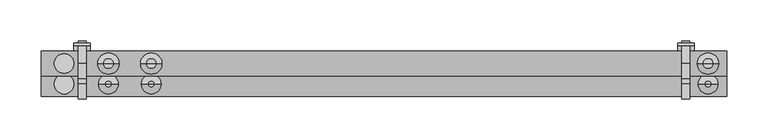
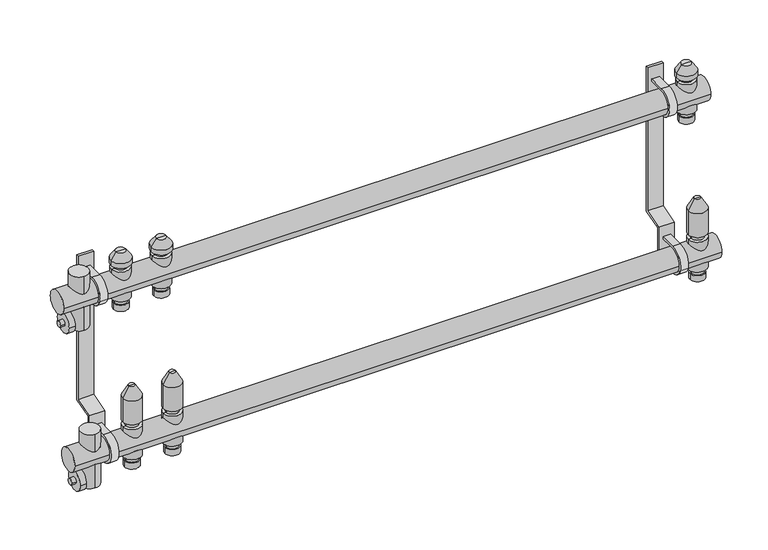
"""IFC4 building model written with IfcOpenShell, lengths in millimetres: valve geometry, PL AT_Manifold_FT-EV : 15 circuits."""

from ifc_helpers import new_model, si_unit, point, frame, frame_2d, origin, origin_2d, place, context, project, spatial, polyline, circle_curve, trimmed, segment, composite_curve, outline, extrude, source, transform, mapped, element, save
from ifc_brep_helpers import plane_surface, cylinder_surface, revolved_surface, advanced_brep


def valve_c404d8d8(model_context):
    return source(origin(), model_context, "Body", "SolidModel", [
        advanced_brep(
        [(84.6428571, 0.0, -35.11267), (103.6428571, 0.0, -35.11267), (94.1428571, 0.0, -35.11267), (84.6428571, 0.0, -27.0369646), (103.6428571, 0.0, -27.0369646), (86.1428571, 0.0, -27.0369646), (102.1428571, 0.0, -27.0369646), (86.1428571, 0.0, -20.330253), (102.1428571, 0.0, -20.330253), (82.1428571, 0.0, -20.330253), (106.1428571, 0.0, -20.330253), (82.1428571, 0.0, 20.330253), (106.1428571, 0.0, 20.330253), (86.1428571, 0.0, 20.330253), (102.1428571, 0.0, 20.330253), (86.1428571, 0.0, 27.0474786), (102.1428571, 0.0, 27.0474786), (82.1428571, 0.0, 27.0474786), (106.1428571, 0.0, 27.0474786), (82.1428571, 0.0, 59.4084325), (106.1428571, 0.0, 59.4084325), (90.1428571, 0.0, 73.264839), (98.1428571, 0.0, 73.264839), (94.1428571, 0.0, 73.264839)],
        [
            (0, 1, circle_curve(frame((94.1428571, 0.0, -35.11267), z_axis=(0.0, 0.0, -1.0), x_axis=(1.0, 0.0, 0.0)), 9.5)),
            (1, 2),
            (2, 0),
            (1, 0, circle_curve(frame((94.1428571, 0.0, -35.11267), z_axis=(0.0, 0.0, -1.0), x_axis=(1.0, 0.0, 0.0)), 9.5)),
            (3, 4, circle_curve(frame((94.1428571, 0.0, -27.0369646), z_axis=(0.0, 0.0, -1.0), x_axis=(1.0, 0.0, 0.0)), 9.5)),
            (4, 1),
            (0, 3),
            (4, 3, circle_curve(frame((94.1428571, 0.0, -27.0369646), z_axis=(0.0, 0.0, -1.0), x_axis=(1.0, 0.0, 0.0)), 9.5)),
            (5, 6, circle_curve(frame((94.1428571, 0.0, -27.0369646), z_axis=(0.0, 0.0, -1.0), x_axis=(1.0, 0.0, 0.0)), 8.0)),
            (6, 4),
            (3, 5),
            (6, 5, circle_curve(frame((94.1428571, 0.0, -27.0369646), z_axis=(0.0, 0.0, -1.0), x_axis=(1.0, 0.0, 0.0)), 8.0)),
            (7, 8, circle_curve(frame((94.1428571, 0.0, -20.330253), z_axis=(0.0, 0.0, -1.0), x_axis=(1.0, 0.0, 0.0)), 8.0)),
            (8, 6),
            (5, 7),
            (8, 7, circle_curve(frame((94.1428571, 0.0, -20.330253), z_axis=(0.0, 0.0, -1.0), x_axis=(1.0, 0.0, 0.0)), 8.0)),
            (9, 10, circle_curve(frame((94.1428571, 0.0, -20.330253), z_axis=(0.0, 0.0, -1.0), x_axis=(1.0, 0.0, 0.0)), 12.0)),
            (10, 8),
            (7, 9),
            (10, 9, circle_curve(frame((94.1428571, 0.0, -20.330253), z_axis=(0.0, 0.0, -1.0), x_axis=(1.0, 0.0, 0.0)), 12.0)),
            (11, 12, circle_curve(frame((94.1428571, 0.0, 20.330253), z_axis=(0.0, 0.0, -1.0), x_axis=(1.0, 0.0, 0.0)), 12.0)),
            (12, 10),
            (9, 11),
            (12, 11, circle_curve(frame((94.1428571, 0.0, 20.330253), z_axis=(0.0, 0.0, -1.0), x_axis=(1.0, 0.0, 0.0)), 12.0)),
            (13, 14, circle_curve(frame((94.1428571, 0.0, 20.330253), z_axis=(0.0, 0.0, -1.0), x_axis=(1.0, 0.0, 0.0)), 8.0)),
            (14, 12),
            (11, 13),
            (14, 13, circle_curve(frame((94.1428571, 0.0, 20.330253), z_axis=(0.0, 0.0, -1.0), x_axis=(1.0, 0.0, 0.0)), 8.0)),
            (15, 16, circle_curve(frame((94.1428571, 0.0, 27.0474786), z_axis=(0.0, 0.0, -1.0), x_axis=(1.0, 0.0, 0.0)), 8.0)),
            (16, 14),
            (13, 15),
            (16, 15, circle_curve(frame((94.1428571, 0.0, 27.0474786), z_axis=(0.0, 0.0, -1.0), x_axis=(1.0, 0.0, 0.0)), 8.0)),
            (17, 18, circle_curve(frame((94.1428571, 0.0, 27.0474786), z_axis=(0.0, 0.0, -1.0), x_axis=(1.0, 0.0, 0.0)), 12.0)),
            (18, 16),
            (15, 17),
            (18, 17, circle_curve(frame((94.1428571, 0.0, 27.0474786), z_axis=(0.0, 0.0, -1.0), x_axis=(1.0, 0.0, 0.0)), 12.0)),
            (19, 20, circle_curve(frame((94.1428571, 0.0, 59.4084325), z_axis=(0.0, 0.0, -1.0), x_axis=(1.0, 0.0, 0.0)), 12.0)),
            (20, 18),
            (17, 19),
            (20, 19, circle_curve(frame((94.1428571, 0.0, 59.4084325), z_axis=(0.0, 0.0, -1.0), x_axis=(1.0, 0.0, 0.0)), 12.0)),
            (21, 22, circle_curve(frame((94.1428571, 0.0, 73.264839), z_axis=(0.0, 0.0, -1.0), x_axis=(1.0, 0.0, 0.0)), 4.0)),
            (22, 20),
            (19, 21),
            (22, 21, circle_curve(frame((94.1428571, 0.0, 73.264839), z_axis=(0.0, 0.0, -1.0), x_axis=(1.0, 0.0, 0.0)), 4.0)),
            (23, 22),
            (21, 23),
        ],
        [
            plane_surface(frame((94.1428571, 0.0, -35.11267), z_axis=(0.0, 0.0, -1.0), x_axis=(1.0, 0.0, 0.0))),
            cylinder_surface(frame((94.1428571, 0.0, 58.264839), z_axis=(0.0, 0.0, 1.0), x_axis=(1.0, 0.0, 0.0)), 9.5),
            plane_surface(frame((94.1428571, 0.0, -27.0369646), z_axis=(0.0, 0.0, 1.0), x_axis=(1.0, 0.0, 0.0))),
            cylinder_surface(frame((94.1428571, 0.0, 58.264839), z_axis=(0.0, 0.0, 1.0), x_axis=(1.0, 0.0, 0.0)), 8.0),
            plane_surface(frame((94.1428571, 0.0, -20.330253), z_axis=(0.0, 0.0, -1.0), x_axis=(1.0, 0.0, 0.0))),
            cylinder_surface(frame((94.1428571, 0.0, 58.264839), z_axis=(0.0, 0.0, 1.0), x_axis=(1.0, 0.0, 0.0)), 12.0),
            plane_surface(frame((94.1428571, 0.0, 20.330253), z_axis=(0.0, 0.0, 1.0), x_axis=(1.0, 0.0, 0.0))),
            plane_surface(frame((94.1428571, 0.0, 27.0474786), z_axis=(0.0, 0.0, -1.0), x_axis=(1.0, 0.0, 0.0))),
            revolved_surface(polyline([(106.1428571, 0.0, 59.4084325), (98.1428571, 0.0, 73.264839)]), (94.1428571, 0.0, 58.264839), (0.0, 0.0, 1.0)),
            plane_surface(frame((94.1428571, 0.0, 73.264839), z_axis=(0.0, 0.0, 1.0), x_axis=(1.0, 0.0, 0.0))),
        ],
        [
            (0, [[1, 2, 3]]),
            (0, [[4, -3, -2]]),
            (1, [[5, 6, -1, 7]]),
            (1, [[8, -7, -4, -6]]),
            (2, [[9, 10, -5, 11]]),
            (2, [[12, -11, -8, -10]]),
            (3, [[13, 14, -9, 15]]),
            (3, [[16, -15, -12, -14]]),
            (4, [[17, 18, -13, 19]]),
            (4, [[20, -19, -16, -18]]),
            (5, [[21, 22, -17, 23]]),
            (5, [[24, -23, -20, -22]]),
            (6, [[25, 26, -21, 27]]),
            (6, [[28, -27, -24, -26]]),
            (3, [[29, 30, -25, 31]]),
            (3, [[32, -31, -28, -30]]),
            (7, [[33, 34, -29, 35]]),
            (7, [[36, -35, -32, -34]]),
            (5, [[37, 38, -33, 39]]),
            (5, [[40, -39, -36, -38]]),
            (8, [[41, 42, -37, 43]]),
            (8, [[44, -43, -40, -42]]),
            (9, [[45, -41, 46]]),
            (9, [[-46, -44, -45]]),
        ],
    ),
        advanced_brep(
        [(84.6428571, 25.0, 164.88733), (103.6428571, 25.0, 164.88733), (94.1428571, 25.0, 164.88733), (84.6428571, 25.0, 172.9630354), (103.6428571, 25.0, 172.9630354), (86.1428571, 25.0, 172.9630354), (102.1428571, 25.0, 172.9630354), (86.1428571, 25.0, 179.669747), (102.1428571, 25.0, 179.669747), (82.1428571, 25.0, 179.669747), (106.1428571, 25.0, 179.669747), (82.1428571, 25.0, 220.330253), (106.1428571, 25.0, 220.330253), (86.1428571, 25.0, 220.330253), (102.1428571, 25.0, 220.330253), (86.1428571, 25.0, 226.0474786), (102.1428571, 25.0, 226.0474786), (81.1428571, 25.0, 226.0474786), (107.1428571, 25.0, 226.0474786), (81.1428571, 25.0, 232.337955), (107.1428571, 25.0, 232.337955), (87.798035, 25.0, 241.842534), (100.4876793, 25.0, 241.842534), (94.1428571, 25.0, 241.842534)],
        [
            (0, 1, circle_curve(frame((94.1428571, 25.0, 164.88733), z_axis=(0.0, 0.0, -1.0), x_axis=(1.0, 0.0, 0.0)), 9.5)),
            (1, 2),
            (2, 0),
            (1, 0, circle_curve(frame((94.1428571, 25.0, 164.88733), z_axis=(0.0, 0.0, -1.0), x_axis=(1.0, 0.0, 0.0)), 9.5)),
            (3, 4, circle_curve(frame((94.1428571, 25.0, 172.9630354), z_axis=(0.0, 0.0, -1.0), x_axis=(1.0, 0.0, 0.0)), 9.5)),
            (4, 1),
            (0, 3),
            (4, 3, circle_curve(frame((94.1428571, 25.0, 172.9630354), z_axis=(0.0, 0.0, -1.0), x_axis=(1.0, 0.0, 0.0)), 9.5)),
            (5, 6, circle_curve(frame((94.1428571, 25.0, 172.9630354), z_axis=(0.0, 0.0, -1.0), x_axis=(1.0, 0.0, 0.0)), 8.0)),
            (6, 4),
            (3, 5),
            (6, 5, circle_curve(frame((94.1428571, 25.0, 172.9630354), z_axis=(0.0, 0.0, -1.0), x_axis=(1.0, 0.0, 0.0)), 8.0)),
            (7, 8, circle_curve(frame((94.1428571, 25.0, 179.669747), z_axis=(0.0, 0.0, -1.0), x_axis=(1.0, 0.0, 0.0)), 8.0)),
            (8, 6),
            (5, 7),
            (8, 7, circle_curve(frame((94.1428571, 25.0, 179.669747), z_axis=(0.0, 0.0, -1.0), x_axis=(1.0, 0.0, 0.0)), 8.0)),
            (9, 10, circle_curve(frame((94.1428571, 25.0, 179.669747), z_axis=(0.0, 0.0, -1.0), x_axis=(1.0, 0.0, 0.0)), 12.0)),
            (10, 8),
            (7, 9),
            (10, 9, circle_curve(frame((94.1428571, 25.0, 179.669747), z_axis=(0.0, 0.0, -1.0), x_axis=(1.0, 0.0, 0.0)), 12.0)),
            (11, 12, circle_curve(frame((94.1428571, 25.0, 220.330253), z_axis=(0.0, 0.0, -1.0), x_axis=(1.0, 0.0, 0.0)), 12.0)),
            (12, 10),
            (9, 11),
            (12, 11, circle_curve(frame((94.1428571, 25.0, 220.330253), z_axis=(0.0, 0.0, -1.0), x_axis=(1.0, 0.0, 0.0)), 12.0)),
            (13, 14, circle_curve(frame((94.1428571, 25.0, 220.330253), z_axis=(0.0, 0.0, -1.0), x_axis=(1.0, 0.0, 0.0)), 8.0)),
            (14, 12),
            (11, 13),
            (14, 13, circle_curve(frame((94.1428571, 25.0, 220.330253), z_axis=(0.0, 0.0, -1.0), x_axis=(1.0, 0.0, 0.0)), 8.0)),
            (15, 16, circle_curve(frame((94.1428571, 25.0, 226.0474786), z_axis=(0.0, 0.0, -1.0), x_axis=(1.0, 0.0, 0.0)), 8.0)),
            (16, 14),
            (13, 15),
            (16, 15, circle_curve(frame((94.1428571, 25.0, 226.0474786), z_axis=(0.0, 0.0, -1.0), x_axis=(1.0, 0.0, 0.0)), 8.0)),
            (17, 18, circle_curve(frame((94.1428571, 25.0, 226.0474786), z_axis=(0.0, 0.0, -1.0), x_axis=(1.0, 0.0, 0.0)), 13.0)),
            (18, 16),
            (15, 17),
            (18, 17, circle_curve(frame((94.1428571, 25.0, 226.0474786), z_axis=(0.0, 0.0, -1.0), x_axis=(1.0, 0.0, 0.0)), 13.0)),
            (19, 20, circle_curve(frame((94.1428571, 25.0, 232.337955), z_axis=(0.0, 0.0, -1.0), x_axis=(1.0, 0.0, 0.0)), 13.0)),
            (20, 18),
            (17, 19),
            (20, 19, circle_curve(frame((94.1428571, 25.0, 232.337955), z_axis=(0.0, 0.0, -1.0), x_axis=(1.0, 0.0, 0.0)), 13.0)),
            (21, 22, circle_curve(frame((94.1428571, 25.0, 241.842534), z_axis=(0.0, 0.0, -1.0), x_axis=(1.0, 0.0, 0.0)), 6.3448221)),
            (22, 20),
            (19, 21),
            (22, 21, circle_curve(frame((94.1428571, 25.0, 241.842534), z_axis=(0.0, 0.0, -1.0), x_axis=(1.0, 0.0, 0.0)), 6.3448221)),
            (23, 22),
            (21, 23),
        ],
        [
            plane_surface(frame((94.1428571, 25.0, 164.88733), z_axis=(0.0, 0.0, -1.0), x_axis=(1.0, 0.0, 0.0))),
            cylinder_surface(frame((94.1428571, 25.0, 237.7026565), z_axis=(0.0, 0.0, 1.0), x_axis=(1.0, 0.0, 0.0)), 9.5),
            plane_surface(frame((94.1428571, 25.0, 172.9630354), z_axis=(0.0, 0.0, 1.0), x_axis=(1.0, 0.0, 0.0))),
            cylinder_surface(frame((94.1428571, 25.0, 237.7026565), z_axis=(0.0, 0.0, 1.0), x_axis=(1.0, 0.0, 0.0)), 8.0),
            plane_surface(frame((94.1428571, 25.0, 179.669747), z_axis=(0.0, 0.0, -1.0), x_axis=(1.0, 0.0, 0.0))),
            cylinder_surface(frame((94.1428571, 25.0, 237.7026565), z_axis=(0.0, 0.0, 1.0), x_axis=(1.0, 0.0, 0.0)), 12.0),
            plane_surface(frame((94.1428571, 25.0, 220.330253), z_axis=(0.0, 0.0, 1.0), x_axis=(1.0, 0.0, 0.0))),
            plane_surface(frame((94.1428571, 25.0, 226.0474786), z_axis=(0.0, 0.0, -1.0), x_axis=(1.0, 0.0, 0.0))),
            cylinder_surface(frame((94.1428571, 25.0, 237.7026565), z_axis=(0.0, 0.0, 1.0), x_axis=(1.0, 0.0, 0.0)), 13.0),
            revolved_surface(polyline([(107.1428571, 25.0, 232.337955), (100.4876793, 25.0, 241.842534)]), (94.1428571, 25.0, 237.7026565), (0.0, 0.0, 1.0)),
            plane_surface(frame((94.1428571, 25.0, 241.842534), z_axis=(0.0, 0.0, 1.0), x_axis=(1.0, 0.0, 0.0))),
        ],
        [
            (0, [[1, 2, 3]]),
            (0, [[4, -3, -2]]),
            (1, [[5, 6, -1, 7]]),
            (1, [[8, -7, -4, -6]]),
            (2, [[9, 10, -5, 11]]),
            (2, [[12, -11, -8, -10]]),
            (3, [[13, 14, -9, 15]]),
            (3, [[16, -15, -12, -14]]),
            (4, [[17, 18, -13, 19]]),
            (4, [[20, -19, -16, -18]]),
            (5, [[21, 22, -17, 23]]),
            (5, [[24, -23, -20, -22]]),
            (6, [[25, 26, -21, 27]]),
            (6, [[28, -27, -24, -26]]),
            (3, [[29, 30, -25, 31]]),
            (3, [[32, -31, -28, -30]]),
            (7, [[33, 34, -29, 35]]),
            (7, [[36, -35, -32, -34]]),
            (8, [[37, 38, -33, 39]]),
            (8, [[40, -39, -36, -38]]),
            (9, [[41, 42, -37, 43]]),
            (9, [[44, -43, -40, -42]]),
            (10, [[45, -41, 46]]),
            (10, [[-46, -44, -45]]),
        ],
    ),
        advanced_brep(
        [(762.5, 0.0, -35.11267), (781.5, 0.0, -35.11267), (772.0, 0.0, -35.11267), (762.5, 0.0, -27.0369646), (781.5, 0.0, -27.0369646), (764.0, 0.0, -27.0369646), (780.0, 0.0, -27.0369646), (764.0, 0.0, -20.330253), (780.0, 0.0, -20.330253), (760.0, 0.0, -20.330253), (784.0, 0.0, -20.330253), (760.0, 0.0, 20.330253), (784.0, 0.0, 20.330253), (764.0, 0.0, 20.330253), (780.0, 0.0, 20.330253), (764.0, 0.0, 27.0474786), (780.0, 0.0, 27.0474786), (760.0, 0.0, 27.0474786), (784.0, 0.0, 27.0474786), (760.0, 0.0, 59.4084325), (784.0, 0.0, 59.4084325), (768.0, 0.0, 73.264839), (776.0, 0.0, 73.264839), (772.0, 0.0, 73.264839)],
        [
            (0, 1, circle_curve(frame((772.0, 0.0, -35.11267), z_axis=(0.0, 0.0, -1.0), x_axis=(1.0, 0.0, 0.0)), 9.5)),
            (1, 2),
            (2, 0),
            (1, 0, circle_curve(frame((772.0, 0.0, -35.11267), z_axis=(0.0, 0.0, -1.0), x_axis=(1.0, 0.0, 0.0)), 9.5)),
            (3, 4, circle_curve(frame((772.0, 0.0, -27.0369646), z_axis=(0.0, 0.0, -1.0), x_axis=(1.0, 0.0, 0.0)), 9.5)),
            (4, 1),
            (0, 3),
            (4, 3, circle_curve(frame((772.0, 0.0, -27.0369646), z_axis=(0.0, 0.0, -1.0), x_axis=(1.0, 0.0, 0.0)), 9.5)),
            (5, 6, circle_curve(frame((772.0, 0.0, -27.0369646), z_axis=(0.0, 0.0, -1.0), x_axis=(1.0, 0.0, 0.0)), 8.0)),
            (6, 4),
            (3, 5),
            (6, 5, circle_curve(frame((772.0, 0.0, -27.0369646), z_axis=(0.0, 0.0, -1.0), x_axis=(1.0, 0.0, 0.0)), 8.0)),
            (7, 8, circle_curve(frame((772.0, 0.0, -20.330253), z_axis=(0.0, 0.0, -1.0), x_axis=(1.0, 0.0, 0.0)), 8.0)),
            (8, 6),
            (5, 7),
            (8, 7, circle_curve(frame((772.0, 0.0, -20.330253), z_axis=(0.0, 0.0, -1.0), x_axis=(1.0, 0.0, 0.0)), 8.0)),
            (9, 10, circle_curve(frame((772.0, 0.0, -20.330253), z_axis=(0.0, 0.0, -1.0), x_axis=(1.0, 0.0, 0.0)), 12.0)),
            (10, 8),
            (7, 9),
            (10, 9, circle_curve(frame((772.0, 0.0, -20.330253), z_axis=(0.0, 0.0, -1.0), x_axis=(1.0, 0.0, 0.0)), 12.0)),
            (11, 12, circle_curve(frame((772.0, 0.0, 20.330253), z_axis=(0.0, 0.0, -1.0), x_axis=(1.0, 0.0, 0.0)), 12.0)),
            (12, 10),
            (9, 11),
            (12, 11, circle_curve(frame((772.0, 0.0, 20.330253), z_axis=(0.0, 0.0, -1.0), x_axis=(1.0, 0.0, 0.0)), 12.0)),
            (13, 14, circle_curve(frame((772.0, 0.0, 20.330253), z_axis=(0.0, 0.0, -1.0), x_axis=(1.0, 0.0, 0.0)), 8.0)),
            (14, 12),
            (11, 13),
            (14, 13, circle_curve(frame((772.0, 0.0, 20.330253), z_axis=(0.0, 0.0, -1.0), x_axis=(1.0, 0.0, 0.0)), 8.0)),
            (15, 16, circle_curve(frame((772.0, 0.0, 27.0474786), z_axis=(0.0, 0.0, -1.0), x_axis=(1.0, 0.0, 0.0)), 8.0)),
            (16, 14),
            (13, 15),
            (16, 15, circle_curve(frame((772.0, 0.0, 27.0474786), z_axis=(0.0, 0.0, -1.0), x_axis=(1.0, 0.0, 0.0)), 8.0)),
            (17, 18, circle_curve(frame((772.0, 0.0, 27.0474786), z_axis=(0.0, 0.0, -1.0), x_axis=(1.0, 0.0, 0.0)), 12.0)),
            (18, 16),
            (15, 17),
            (18, 17, circle_curve(frame((772.0, 0.0, 27.0474786), z_axis=(0.0, 0.0, -1.0), x_axis=(1.0, 0.0, 0.0)), 12.0)),
            (19, 20, circle_curve(frame((772.0, 0.0, 59.4084325), z_axis=(0.0, 0.0, -1.0), x_axis=(1.0, 0.0, 0.0)), 12.0)),
            (20, 18),
            (17, 19),
            (20, 19, circle_curve(frame((772.0, 0.0, 59.4084325), z_axis=(0.0, 0.0, -1.0), x_axis=(1.0, 0.0, 0.0)), 12.0)),
            (21, 22, circle_curve(frame((772.0, 0.0, 73.264839), z_axis=(0.0, 0.0, -1.0), x_axis=(1.0, 0.0, 0.0)), 4.0)),
            (22, 20),
            (19, 21),
            (22, 21, circle_curve(frame((772.0, 0.0, 73.264839), z_axis=(0.0, 0.0, -1.0), x_axis=(1.0, 0.0, 0.0)), 4.0)),
            (23, 22),
            (21, 23),
        ],
        [
            plane_surface(frame((772.0, 0.0, -35.11267), z_axis=(0.0, 0.0, -1.0), x_axis=(1.0, 0.0, 0.0))),
            cylinder_surface(frame((772.0, 0.0, 58.264839), z_axis=(0.0, 0.0, 1.0), x_axis=(1.0, 0.0, 0.0)), 9.5),
            plane_surface(frame((772.0, 0.0, -27.0369646), z_axis=(0.0, 0.0, 1.0), x_axis=(1.0, 0.0, 0.0))),
            cylinder_surface(frame((772.0, 0.0, 58.264839), z_axis=(0.0, 0.0, 1.0), x_axis=(1.0, 0.0, 0.0)), 8.0),
            plane_surface(frame((772.0, 0.0, -20.330253), z_axis=(0.0, 0.0, -1.0), x_axis=(1.0, 0.0, 0.0))),
            cylinder_surface(frame((772.0, 0.0, 58.264839), z_axis=(0.0, 0.0, 1.0), x_axis=(1.0, 0.0, 0.0)), 12.0),
            plane_surface(frame((772.0, 0.0, 20.330253), z_axis=(0.0, 0.0, 1.0), x_axis=(1.0, 0.0, 0.0))),
            plane_surface(frame((772.0, 0.0, 27.0474786), z_axis=(0.0, 0.0, -1.0), x_axis=(1.0, 0.0, 0.0))),
            revolved_surface(polyline([(784.0, 0.0, 59.4084325), (776.0, 0.0, 73.264839)]), (772.0, 0.0, 58.264839), (0.0, 0.0, 1.0)),
            plane_surface(frame((772.0, 0.0, 73.264839), z_axis=(0.0, 0.0, 1.0), x_axis=(1.0, 0.0, 0.0))),
        ],
        [
            (0, [[1, 2, 3]]),
            (0, [[4, -3, -2]]),
            (1, [[5, 6, -1, 7]]),
            (1, [[8, -7, -4, -6]]),
            (2, [[9, 10, -5, 11]]),
            (2, [[12, -11, -8, -10]]),
            (3, [[13, 14, -9, 15]]),
            (3, [[16, -15, -12, -14]]),
            (4, [[17, 18, -13, 19]]),
            (4, [[20, -19, -16, -18]]),
            (5, [[21, 22, -17, 23]]),
            (5, [[24, -23, -20, -22]]),
            (6, [[25, 26, -21, 27]]),
            (6, [[28, -27, -24, -26]]),
            (3, [[29, 30, -25, 31]]),
            (3, [[32, -31, -28, -30]]),
            (7, [[33, 34, -29, 35]]),
            (7, [[36, -35, -32, -34]]),
            (5, [[37, 38, -33, 39]]),
            (5, [[40, -39, -36, -38]]),
            (8, [[41, 42, -37, 43]]),
            (8, [[44, -43, -40, -42]]),
            (9, [[45, -41, 46]]),
            (9, [[-46, -44, -45]]),
        ],
    ),
        advanced_brep(
        [(762.5, 25.0, 164.88733), (781.5, 25.0, 164.88733), (772.0, 25.0, 164.88733), (762.5, 25.0, 172.9630354), (781.5, 25.0, 172.9630354), (764.0, 25.0, 172.9630354), (780.0, 25.0, 172.9630354), (764.0, 25.0, 179.669747), (780.0, 25.0, 179.669747), (760.0, 25.0, 179.669747), (784.0, 25.0, 179.669747), (760.0, 25.0, 220.330253), (784.0, 25.0, 220.330253), (764.0, 25.0, 220.330253), (780.0, 25.0, 220.330253), (764.0, 25.0, 226.0474786), (780.0, 25.0, 226.0474786), (759.0, 25.0, 226.0474786), (785.0, 25.0, 226.0474786), (759.0, 25.0, 232.337955), (785.0, 25.0, 232.337955), (765.6551779, 25.0, 241.842534), (778.3448221, 25.0, 241.842534), (772.0, 25.0, 241.842534)],
        [
            (0, 1, circle_curve(frame((772.0, 25.0, 164.88733), z_axis=(0.0, 0.0, -1.0), x_axis=(1.0, 0.0, 0.0)), 9.5)),
            (1, 2),
            (2, 0),
            (1, 0, circle_curve(frame((772.0, 25.0, 164.88733), z_axis=(0.0, 0.0, -1.0), x_axis=(1.0, 0.0, 0.0)), 9.5)),
            (3, 4, circle_curve(frame((772.0, 25.0, 172.9630354), z_axis=(0.0, 0.0, -1.0), x_axis=(1.0, 0.0, 0.0)), 9.5)),
            (4, 1),
            (0, 3),
            (4, 3, circle_curve(frame((772.0, 25.0, 172.9630354), z_axis=(0.0, 0.0, -1.0), x_axis=(1.0, 0.0, 0.0)), 9.5)),
            (5, 6, circle_curve(frame((772.0, 25.0, 172.9630354), z_axis=(0.0, 0.0, -1.0), x_axis=(1.0, 0.0, 0.0)), 8.0)),
            (6, 4),
            (3, 5),
            (6, 5, circle_curve(frame((772.0, 25.0, 172.9630354), z_axis=(0.0, 0.0, -1.0), x_axis=(1.0, 0.0, 0.0)), 8.0)),
            (7, 8, circle_curve(frame((772.0, 25.0, 179.669747), z_axis=(0.0, 0.0, -1.0), x_axis=(1.0, 0.0, 0.0)), 8.0)),
            (8, 6),
            (5, 7),
            (8, 7, circle_curve(frame((772.0, 25.0, 179.669747), z_axis=(0.0, 0.0, -1.0), x_axis=(1.0, 0.0, 0.0)), 8.0)),
            (9, 10, circle_curve(frame((772.0, 25.0, 179.669747), z_axis=(0.0, 0.0, -1.0), x_axis=(1.0, 0.0, 0.0)), 12.0)),
            (10, 8),
            (7, 9),
            (10, 9, circle_curve(frame((772.0, 25.0, 179.669747), z_axis=(0.0, 0.0, -1.0), x_axis=(1.0, 0.0, 0.0)), 12.0)),
            (11, 12, circle_curve(frame((772.0, 25.0, 220.330253), z_axis=(0.0, 0.0, -1.0), x_axis=(1.0, 0.0, 0.0)), 12.0)),
            (12, 10),
            (9, 11),
            (12, 11, circle_curve(frame((772.0, 25.0, 220.330253), z_axis=(0.0, 0.0, -1.0), x_axis=(1.0, 0.0, 0.0)), 12.0)),
            (13, 14, circle_curve(frame((772.0, 25.0, 220.330253), z_axis=(0.0, 0.0, -1.0), x_axis=(1.0, 0.0, 0.0)), 8.0)),
            (14, 12),
            (11, 13),
            (14, 13, circle_curve(frame((772.0, 25.0, 220.330253), z_axis=(0.0, 0.0, -1.0), x_axis=(1.0, 0.0, 0.0)), 8.0)),
            (15, 16, circle_curve(frame((772.0, 25.0, 226.0474786), z_axis=(0.0, 0.0, -1.0), x_axis=(1.0, 0.0, 0.0)), 8.0)),
            (16, 14),
            (13, 15),
            (16, 15, circle_curve(frame((772.0, 25.0, 226.0474786), z_axis=(0.0, 0.0, -1.0), x_axis=(1.0, 0.0, 0.0)), 8.0)),
            (17, 18, circle_curve(frame((772.0, 25.0, 226.0474786), z_axis=(0.0, 0.0, -1.0), x_axis=(1.0, 0.0, 0.0)), 13.0)),
            (18, 16),
            (15, 17),
            (18, 17, circle_curve(frame((772.0, 25.0, 226.0474786), z_axis=(0.0, 0.0, -1.0), x_axis=(1.0, 0.0, 0.0)), 13.0)),
            (19, 20, circle_curve(frame((772.0, 25.0, 232.337955), z_axis=(0.0, 0.0, -1.0), x_axis=(1.0, 0.0, 0.0)), 13.0)),
            (20, 18),
            (17, 19),
            (20, 19, circle_curve(frame((772.0, 25.0, 232.337955), z_axis=(0.0, 0.0, -1.0), x_axis=(1.0, 0.0, 0.0)), 13.0)),
            (21, 22, circle_curve(frame((772.0, 25.0, 241.842534), z_axis=(0.0, 0.0, -1.0), x_axis=(1.0, 0.0, 0.0)), 6.3448221)),
            (22, 20),
            (19, 21),
            (22, 21, circle_curve(frame((772.0, 25.0, 241.842534), z_axis=(0.0, 0.0, -1.0), x_axis=(1.0, 0.0, 0.0)), 6.3448221)),
            (23, 22),
            (21, 23),
        ],
        [
            plane_surface(frame((772.0, 25.0, 164.88733), z_axis=(0.0, 0.0, -1.0), x_axis=(1.0, 0.0, 0.0))),
            cylinder_surface(frame((772.0, 25.0, 237.7026565), z_axis=(0.0, 0.0, 1.0), x_axis=(1.0, 0.0, 0.0)), 9.5),
            plane_surface(frame((772.0, 25.0, 172.9630354), z_axis=(0.0, 0.0, 1.0), x_axis=(1.0, 0.0, 0.0))),
            cylinder_surface(frame((772.0, 25.0, 237.7026565), z_axis=(0.0, 0.0, 1.0), x_axis=(1.0, 0.0, 0.0)), 8.0),
            plane_surface(frame((772.0, 25.0, 179.669747), z_axis=(0.0, 0.0, -1.0), x_axis=(1.0, 0.0, 0.0))),
            cylinder_surface(frame((772.0, 25.0, 237.7026565), z_axis=(0.0, 0.0, 1.0), x_axis=(1.0, 0.0, 0.0)), 12.0),
            plane_surface(frame((772.0, 25.0, 220.330253), z_axis=(0.0, 0.0, 1.0), x_axis=(1.0, 0.0, 0.0))),
            plane_surface(frame((772.0, 25.0, 226.0474786), z_axis=(0.0, 0.0, -1.0), x_axis=(1.0, 0.0, 0.0))),
            cylinder_surface(frame((772.0, 25.0, 237.7026565), z_axis=(0.0, 0.0, 1.0), x_axis=(1.0, 0.0, 0.0)), 13.0),
            revolved_surface(polyline([(785.0, 25.0, 232.337955), (778.3448221, 25.0, 241.842534)]), (772.0, 25.0, 237.7026565), (0.0, 0.0, 1.0)),
            plane_surface(frame((772.0, 25.0, 241.842534), z_axis=(0.0, 0.0, 1.0), x_axis=(1.0, 0.0, 0.0))),
        ],
        [
            (0, [[1, 2, 3]]),
            (0, [[4, -3, -2]]),
            (1, [[5, 6, -1, 7]]),
            (1, [[8, -7, -4, -6]]),
            (2, [[9, 10, -5, 11]]),
            (2, [[12, -11, -8, -10]]),
            (3, [[13, 14, -9, 15]]),
            (3, [[16, -15, -12, -14]]),
            (4, [[17, 18, -13, 19]]),
            (4, [[20, -19, -16, -18]]),
            (5, [[21, 22, -17, 23]]),
            (5, [[24, -23, -20, -22]]),
            (6, [[25, 26, -21, 27]]),
            (6, [[28, -27, -24, -26]]),
            (3, [[29, 30, -25, 31]]),
            (3, [[32, -31, -28, -30]]),
            (7, [[33, 34, -29, 35]]),
            (7, [[36, -35, -32, -34]]),
            (8, [[37, 38, -33, 39]]),
            (8, [[40, -39, -36, -38]]),
            (9, [[41, 42, -37, 43]]),
            (9, [[44, -43, -40, -42]]),
            (10, [[45, -41, 46]]),
            (10, [[-46, -44, -45]]),
        ],
    ),
        advanced_brep(
        [(32.5, 25.0, 164.88733), (51.5, 25.0, 164.88733), (42.0, 25.0, 164.88733), (32.5, 25.0, 172.9630354), (51.5, 25.0, 172.9630354), (34.0, 25.0, 172.9630354), (50.0, 25.0, 172.9630354), (34.0, 25.0, 179.669747), (50.0, 25.0, 179.669747), (30.0, 25.0, 179.669747), (54.0, 25.0, 179.669747), (30.0, 25.0, 220.330253), (54.0, 25.0, 220.330253), (34.0, 25.0, 220.330253), (50.0, 25.0, 220.330253), (34.0, 25.0, 226.0474786), (50.0, 25.0, 226.0474786), (29.0, 25.0, 226.0474786), (55.0, 25.0, 226.0474786), (29.0, 25.0, 232.337955), (55.0, 25.0, 232.337955), (35.6551779, 25.0, 241.842534), (48.3448221, 25.0, 241.842534), (42.0, 25.0, 241.842534)],
        [
            (0, 1, circle_curve(frame((42.0, 25.0, 164.88733), z_axis=(0.0, 0.0, -1.0), x_axis=(1.0, 0.0, 0.0)), 9.5)),
            (1, 2),
            (2, 0),
            (1, 0, circle_curve(frame((42.0, 25.0, 164.88733), z_axis=(0.0, 0.0, -1.0), x_axis=(1.0, 0.0, 0.0)), 9.5)),
            (3, 4, circle_curve(frame((42.0, 25.0, 172.9630354), z_axis=(0.0, 0.0, -1.0), x_axis=(1.0, 0.0, 0.0)), 9.5)),
            (4, 1),
            (0, 3),
            (4, 3, circle_curve(frame((42.0, 25.0, 172.9630354), z_axis=(0.0, 0.0, -1.0), x_axis=(1.0, 0.0, 0.0)), 9.5)),
            (5, 6, circle_curve(frame((42.0, 25.0, 172.9630354), z_axis=(0.0, 0.0, -1.0), x_axis=(1.0, 0.0, 0.0)), 8.0)),
            (6, 4),
            (3, 5),
            (6, 5, circle_curve(frame((42.0, 25.0, 172.9630354), z_axis=(0.0, 0.0, -1.0), x_axis=(1.0, 0.0, 0.0)), 8.0)),
            (7, 8, circle_curve(frame((42.0, 25.0, 179.669747), z_axis=(0.0, 0.0, -1.0), x_axis=(1.0, 0.0, 0.0)), 8.0)),
            (8, 6),
            (5, 7),
            (8, 7, circle_curve(frame((42.0, 25.0, 179.669747), z_axis=(0.0, 0.0, -1.0), x_axis=(1.0, 0.0, 0.0)), 8.0)),
            (9, 10, circle_curve(frame((42.0, 25.0, 179.669747), z_axis=(0.0, 0.0, -1.0), x_axis=(1.0, 0.0, 0.0)), 12.0)),
            (10, 8),
            (7, 9),
            (10, 9, circle_curve(frame((42.0, 25.0, 179.669747), z_axis=(0.0, 0.0, -1.0), x_axis=(1.0, 0.0, 0.0)), 12.0)),
            (11, 12, circle_curve(frame((42.0, 25.0, 220.330253), z_axis=(0.0, 0.0, -1.0), x_axis=(1.0, 0.0, 0.0)), 12.0)),
            (12, 10),
            (9, 11),
            (12, 11, circle_curve(frame((42.0, 25.0, 220.330253), z_axis=(0.0, 0.0, -1.0), x_axis=(1.0, 0.0, 0.0)), 12.0)),
            (13, 14, circle_curve(frame((42.0, 25.0, 220.330253), z_axis=(0.0, 0.0, -1.0), x_axis=(1.0, 0.0, 0.0)), 8.0)),
            (14, 12),
            (11, 13),
            (14, 13, circle_curve(frame((42.0, 25.0, 220.330253), z_axis=(0.0, 0.0, -1.0), x_axis=(1.0, 0.0, 0.0)), 8.0)),
            (15, 16, circle_curve(frame((42.0, 25.0, 226.0474786), z_axis=(0.0, 0.0, -1.0), x_axis=(1.0, 0.0, 0.0)), 8.0)),
            (16, 14),
            (13, 15),
            (16, 15, circle_curve(frame((42.0, 25.0, 226.0474786), z_axis=(0.0, 0.0, -1.0), x_axis=(1.0, 0.0, 0.0)), 8.0)),
            (17, 18, circle_curve(frame((42.0, 25.0, 226.0474786), z_axis=(0.0, 0.0, -1.0), x_axis=(1.0, 0.0, 0.0)), 13.0)),
            (18, 16),
            (15, 17),
            (18, 17, circle_curve(frame((42.0, 25.0, 226.0474786), z_axis=(0.0, 0.0, -1.0), x_axis=(1.0, 0.0, 0.0)), 13.0)),
            (19, 20, circle_curve(frame((42.0, 25.0, 232.337955), z_axis=(0.0, 0.0, -1.0), x_axis=(1.0, 0.0, 0.0)), 13.0)),
            (20, 18),
            (17, 19),
            (20, 19, circle_curve(frame((42.0, 25.0, 232.337955), z_axis=(0.0, 0.0, -1.0), x_axis=(1.0, 0.0, 0.0)), 13.0)),
            (21, 22, circle_curve(frame((42.0, 25.0, 241.842534), z_axis=(0.0, 0.0, -1.0), x_axis=(1.0, 0.0, 0.0)), 6.3448221)),
            (22, 20),
            (19, 21),
            (22, 21, circle_curve(frame((42.0, 25.0, 241.842534), z_axis=(0.0, 0.0, -1.0), x_axis=(1.0, 0.0, 0.0)), 6.3448221)),
            (23, 22),
            (21, 23),
        ],
        [
            plane_surface(frame((42.0, 25.0, 164.88733), z_axis=(0.0, 0.0, -1.0), x_axis=(1.0, 0.0, 0.0))),
            cylinder_surface(frame((42.0, 25.0, 237.7026565), z_axis=(0.0, 0.0, 1.0), x_axis=(1.0, 0.0, 0.0)), 9.5),
            plane_surface(frame((42.0, 25.0, 172.9630354), z_axis=(0.0, 0.0, 1.0), x_axis=(1.0, 0.0, 0.0))),
            cylinder_surface(frame((42.0, 25.0, 237.7026565), z_axis=(0.0, 0.0, 1.0), x_axis=(1.0, 0.0, 0.0)), 8.0),
            plane_surface(frame((42.0, 25.0, 179.669747), z_axis=(0.0, 0.0, -1.0), x_axis=(1.0, 0.0, 0.0))),
            cylinder_surface(frame((42.0, 25.0, 237.7026565), z_axis=(0.0, 0.0, 1.0), x_axis=(1.0, 0.0, 0.0)), 12.0),
            plane_surface(frame((42.0, 25.0, 220.330253), z_axis=(0.0, 0.0, 1.0), x_axis=(1.0, 0.0, 0.0))),
            plane_surface(frame((42.0, 25.0, 226.0474786), z_axis=(0.0, 0.0, -1.0), x_axis=(1.0, 0.0, 0.0))),
            cylinder_surface(frame((42.0, 25.0, 237.7026565), z_axis=(0.0, 0.0, 1.0), x_axis=(1.0, 0.0, 0.0)), 13.0),
            revolved_surface(polyline([(55.0, 25.0, 232.337955), (48.3448221, 25.0, 241.842534)]), (42.0, 25.0, 237.7026565), (0.0, 0.0, 1.0)),
            plane_surface(frame((42.0, 25.0, 241.842534), z_axis=(0.0, 0.0, 1.0), x_axis=(1.0, 0.0, 0.0))),
        ],
        [
            (0, [[1, 2, 3]]),
            (0, [[4, -3, -2]]),
            (1, [[5, 6, -1, 7]]),
            (1, [[8, -7, -4, -6]]),
            (2, [[9, 10, -5, 11]]),
            (2, [[12, -11, -8, -10]]),
            (3, [[13, 14, -9, 15]]),
            (3, [[16, -15, -12, -14]]),
            (4, [[17, 18, -13, 19]]),
            (4, [[20, -19, -16, -18]]),
            (5, [[21, 22, -17, 23]]),
            (5, [[24, -23, -20, -22]]),
            (6, [[25, 26, -21, 27]]),
            (6, [[28, -27, -24, -26]]),
            (3, [[29, 30, -25, 31]]),
            (3, [[32, -31, -28, -30]]),
            (7, [[33, 34, -29, 35]]),
            (7, [[36, -35, -32, -34]]),
            (8, [[37, 38, -33, 39]]),
            (8, [[40, -39, -36, -38]]),
            (9, [[41, 42, -37, 43]]),
            (9, [[44, -43, -40, -42]]),
            (10, [[45, -41, 46]]),
            (10, [[-46, -44, -45]]),
        ],
    ),
        advanced_brep(
        [(32.5, 0.0, -35.11267), (51.5, 0.0, -35.11267), (42.0, 0.0, -35.11267), (32.5, 0.0, -27.0369646), (51.5, 0.0, -27.0369646), (34.0, 0.0, -27.0369646), (50.0, 0.0, -27.0369646), (34.0, 0.0, -20.330253), (50.0, 0.0, -20.330253), (30.0, 0.0, -20.330253), (54.0, 0.0, -20.330253), (30.0, 0.0, 20.330253), (54.0, 0.0, 20.330253), (34.0, 0.0, 20.330253), (50.0, 0.0, 20.330253), (34.0, 0.0, 27.0474786), (50.0, 0.0, 27.0474786), (30.0, 0.0, 27.0474786), (54.0, 0.0, 27.0474786), (30.0, 0.0, 59.4084325), (54.0, 0.0, 59.4084325), (38.0, 0.0, 73.264839), (46.0, 0.0, 73.264839), (42.0, 0.0, 73.264839)],
        [
            (0, 1, circle_curve(frame((42.0, 0.0, -35.11267), z_axis=(0.0, 0.0, -1.0), x_axis=(1.0, 0.0, 0.0)), 9.5)),
            (1, 2),
            (2, 0),
            (1, 0, circle_curve(frame((42.0, 0.0, -35.11267), z_axis=(0.0, 0.0, -1.0), x_axis=(1.0, 0.0, 0.0)), 9.5)),
            (3, 4, circle_curve(frame((42.0, 0.0, -27.0369646), z_axis=(0.0, 0.0, -1.0), x_axis=(1.0, 0.0, 0.0)), 9.5)),
            (4, 1),
            (0, 3),
            (4, 3, circle_curve(frame((42.0, 0.0, -27.0369646), z_axis=(0.0, 0.0, -1.0), x_axis=(1.0, 0.0, 0.0)), 9.5)),
            (5, 6, circle_curve(frame((42.0, 0.0, -27.0369646), z_axis=(0.0, 0.0, -1.0), x_axis=(1.0, 0.0, 0.0)), 8.0)),
            (6, 4),
            (3, 5),
            (6, 5, circle_curve(frame((42.0, 0.0, -27.0369646), z_axis=(0.0, 0.0, -1.0), x_axis=(1.0, 0.0, 0.0)), 8.0)),
            (7, 8, circle_curve(frame((42.0, 0.0, -20.330253), z_axis=(0.0, 0.0, -1.0), x_axis=(1.0, 0.0, 0.0)), 8.0)),
            (8, 6),
            (5, 7),
            (8, 7, circle_curve(frame((42.0, 0.0, -20.330253), z_axis=(0.0, 0.0, -1.0), x_axis=(1.0, 0.0, 0.0)), 8.0)),
            (9, 10, circle_curve(frame((42.0, 0.0, -20.330253), z_axis=(0.0, 0.0, -1.0), x_axis=(1.0, 0.0, 0.0)), 12.0)),
            (10, 8),
            (7, 9),
            (10, 9, circle_curve(frame((42.0, 0.0, -20.330253), z_axis=(0.0, 0.0, -1.0), x_axis=(1.0, 0.0, 0.0)), 12.0)),
            (11, 12, circle_curve(frame((42.0, 0.0, 20.330253), z_axis=(0.0, 0.0, -1.0), x_axis=(1.0, 0.0, 0.0)), 12.0)),
            (12, 10),
            (9, 11),
            (12, 11, circle_curve(frame((42.0, 0.0, 20.330253), z_axis=(0.0, 0.0, -1.0), x_axis=(1.0, 0.0, 0.0)), 12.0)),
            (13, 14, circle_curve(frame((42.0, 0.0, 20.330253), z_axis=(0.0, 0.0, -1.0), x_axis=(1.0, 0.0, 0.0)), 8.0)),
            (14, 12),
            (11, 13),
            (14, 13, circle_curve(frame((42.0, 0.0, 20.330253), z_axis=(0.0, 0.0, -1.0), x_axis=(1.0, 0.0, 0.0)), 8.0)),
            (15, 16, circle_curve(frame((42.0, 0.0, 27.0474786), z_axis=(0.0, 0.0, -1.0), x_axis=(1.0, 0.0, 0.0)), 8.0)),
            (16, 14),
            (13, 15),
            (16, 15, circle_curve(frame((42.0, 0.0, 27.0474786), z_axis=(0.0, 0.0, -1.0), x_axis=(1.0, 0.0, 0.0)), 8.0)),
            (17, 18, circle_curve(frame((42.0, 0.0, 27.0474786), z_axis=(0.0, 0.0, -1.0), x_axis=(1.0, 0.0, 0.0)), 12.0)),
            (18, 16),
            (15, 17),
            (18, 17, circle_curve(frame((42.0, 0.0, 27.0474786), z_axis=(0.0, 0.0, -1.0), x_axis=(1.0, 0.0, 0.0)), 12.0)),
            (19, 20, circle_curve(frame((42.0, 0.0, 59.4084325), z_axis=(0.0, 0.0, -1.0), x_axis=(1.0, 0.0, 0.0)), 12.0)),
            (20, 18),
            (17, 19),
            (20, 19, circle_curve(frame((42.0, 0.0, 59.4084325), z_axis=(0.0, 0.0, -1.0), x_axis=(1.0, 0.0, 0.0)), 12.0)),
            (21, 22, circle_curve(frame((42.0, 0.0, 73.264839), z_axis=(0.0, 0.0, -1.0), x_axis=(1.0, 0.0, 0.0)), 4.0)),
            (22, 20),
            (19, 21),
            (22, 21, circle_curve(frame((42.0, 0.0, 73.264839), z_axis=(0.0, 0.0, -1.0), x_axis=(1.0, 0.0, 0.0)), 4.0)),
            (23, 22),
            (21, 23),
        ],
        [
            plane_surface(frame((42.0, 0.0, -35.11267), z_axis=(0.0, 0.0, -1.0), x_axis=(1.0, 0.0, 0.0))),
            cylinder_surface(frame((42.0, 0.0, 58.264839), z_axis=(0.0, 0.0, 1.0), x_axis=(1.0, 0.0, 0.0)), 9.5),
            plane_surface(frame((42.0, 0.0, -27.0369646), z_axis=(0.0, 0.0, 1.0), x_axis=(1.0, 0.0, 0.0))),
            cylinder_surface(frame((42.0, 0.0, 58.264839), z_axis=(0.0, 0.0, 1.0), x_axis=(1.0, 0.0, 0.0)), 8.0),
            plane_surface(frame((42.0, 0.0, -20.330253), z_axis=(0.0, 0.0, -1.0), x_axis=(1.0, 0.0, 0.0))),
            cylinder_surface(frame((42.0, 0.0, 58.264839), z_axis=(0.0, 0.0, 1.0), x_axis=(1.0, 0.0, 0.0)), 12.0),
            plane_surface(frame((42.0, 0.0, 20.330253), z_axis=(0.0, 0.0, 1.0), x_axis=(1.0, 0.0, 0.0))),
            plane_surface(frame((42.0, 0.0, 27.0474786), z_axis=(0.0, 0.0, -1.0), x_axis=(1.0, 0.0, 0.0))),
            revolved_surface(polyline([(54.0, 0.0, 59.4084325), (46.0, 0.0, 73.264839)]), (42.0, 0.0, 58.264839), (0.0, 0.0, 1.0)),
            plane_surface(frame((42.0, 0.0, 73.264839), z_axis=(0.0, 0.0, 1.0), x_axis=(1.0, 0.0, 0.0))),
        ],
        [
            (0, [[1, 2, 3]]),
            (0, [[4, -3, -2]]),
            (1, [[5, 6, -1, 7]]),
            (1, [[8, -7, -4, -6]]),
            (2, [[9, 10, -5, 11]]),
            (2, [[12, -11, -8, -10]]),
            (3, [[13, 14, -9, 15]]),
            (3, [[16, -15, -12, -14]]),
            (4, [[17, 18, -13, 19]]),
            (4, [[20, -19, -16, -18]]),
            (5, [[21, 22, -17, 23]]),
            (5, [[24, -23, -20, -22]]),
            (6, [[25, 26, -21, 27]]),
            (6, [[28, -27, -24, -26]]),
            (3, [[29, 30, -25, 31]]),
            (3, [[32, -31, -28, -30]]),
            (7, [[33, 34, -29, 35]]),
            (7, [[36, -35, -32, -34]]),
            (5, [[37, 38, -33, 39]]),
            (5, [[40, -39, -36, -38]]),
            (8, [[41, 42, -37, 43]]),
            (8, [[44, -43, -40, -42]]),
            (9, [[45, -41, 46]]),
            (9, [[-46, -44, -45]]),
        ],
    ),
        extrude(outline(composite_curve([segment(trimmed(circle_curve(frame_2d((25.0, 169.0476755)), 4.0), [point((29.0, 169.0476755))], [point((21.0, 169.0476755))], False, "CARTESIAN"), True, "CONTINUOUS"), segment(trimmed(circle_curve(frame_2d((25.0, 169.0476755)), 4.0), [point((21.0, 169.0476755))], [point((29.0, 169.0476755))], False, "CARTESIAN"), True, "CONTINUOUS")], self_intersect=False)), frame((-37.7602444, 0.0, 0.0), z_axis=(1.0, 0.0, 0.0), x_axis=(0.0, 1.0, 0.0)), (0.0, 0.0, 1.0), 5.7448033),
        extrude(outline(composite_curve([segment(trimmed(circle_curve(frame_2d((25.0, 169.0476755)), 13.0), [point((38.0, 169.0476755))], [point((12.0, 169.0476755))], False, "CARTESIAN"), True, "CONTINUOUS"), segment(trimmed(circle_curve(frame_2d((25.0, 169.0476755)), 13.0), [point((12.0, 169.0476755))], [point((38.0, 169.0476755))], False, "CARTESIAN"), True, "CONTINUOUS")], self_intersect=False)), frame((-32.0154412, 0.0, 0.0), z_axis=(1.0, 0.0, 0.0), x_axis=(0.0, 1.0, 0.0)), (0.0, 0.0, 1.0), 7.9555096),
        extrude(outline(composite_curve([segment(trimmed(circle_curve(frame_2d((-12.0, 25.0)), 12.0), [point((-12.0, 13.0))], [point((-12.0, 37.0))], False, "CARTESIAN"), True, "CONTINUOUS"), segment(trimmed(circle_curve(frame_2d((-12.0, 25.0)), 12.0), [point((-12.0, 37.0))], [point((-12.0, 13.0))], False, "CARTESIAN"), True, "CONTINUOUS")], self_intersect=False)), frame((0.0, 0.0, 158.8001215), z_axis=(0.0, 0.0, 1.0), x_axis=(1.0, 0.0, 0.0)), (0.0, 0.0, 1.0), 73.4605406),
        extrude(outline(composite_curve([segment(trimmed(circle_curve(frame_2d((0.0, -30.9523245)), 4.0), [point((4.0, -30.9523245))], [point((-4.0, -30.9523245))], False, "CARTESIAN"), True, "CONTINUOUS"), segment(trimmed(circle_curve(frame_2d((0.0, -30.9523245)), 4.0), [point((-4.0, -30.9523245))], [point((4.0, -30.9523245))], False, "CARTESIAN"), True, "CONTINUOUS")], self_intersect=False)), frame((-37.7602444, 0.0, 0.0), z_axis=(1.0, 0.0, 0.0), x_axis=(0.0, 1.0, 0.0)), (0.0, 0.0, 1.0), 5.7448033),
        extrude(outline(composite_curve([segment(trimmed(circle_curve(frame_2d((0.0, -30.9523245)), 13.0), [point((13.0, -30.9523245))], [point((-13.0, -30.9523245))], False, "CARTESIAN"), True, "CONTINUOUS"), segment(trimmed(circle_curve(frame_2d((0.0, -30.9523245)), 13.0), [point((-13.0, -30.9523245))], [point((13.0, -30.9523245))], False, "CARTESIAN"), True, "CONTINUOUS")], self_intersect=False)), frame((-32.0154412, 0.0, 0.0), z_axis=(1.0, 0.0, 0.0), x_axis=(0.0, 1.0, 0.0)), (0.0, 0.0, 1.0), 7.9555096),
        extrude(outline(composite_curve([segment(trimmed(circle_curve(frame_2d((-12.0, 0.0)), 12.0), [point((-12.0, -12.0))], [point((-12.0, 12.0))], False, "CARTESIAN"), True, "CONTINUOUS"), segment(trimmed(circle_curve(frame_2d((-12.0, 0.0)), 12.0), [point((-12.0, 12.0))], [point((-12.0, -12.0))], False, "CARTESIAN"), True, "CONTINUOUS")], self_intersect=False)), frame((0.0, 0.0, -41.1998785), z_axis=(0.0, 0.0, 1.0), x_axis=(1.0, 0.0, 0.0)), (0.0, 0.0, 1.0), 73.4605406),
        extrude(outline(polyline([(50.0, 37.1686346), (25.0, 30.0), (25.0, -30.0), (50.0, -39.0992559), (50.0, -51.1572069), (47.0, -51.1572069), (47.0, -41.1998785), (22.0, -32.1006226), (22.0, 32.2606622), (47.0, 39.4292968), (47.0, 235.0), (50.0, 235.0), (50.0, 37.1686346)])), frame((735.0, 0.0, 0.0), z_axis=(1.0, 0.0, 0.0), x_axis=(0.0, 1.0, 0.0)), (0.0, 0.0, 1.0), 20.0),
        extrude(outline(polyline([(50.0, 37.1686346), (25.0, 30.0), (25.0, -30.0), (50.0, -39.0992559), (50.0, -51.1572069), (47.0, -51.1572069), (47.0, -41.1998785), (22.0, -32.1006226), (22.0, 32.2606622), (47.0, 39.4292968), (47.0, 235.0), (50.0, 235.0), (50.0, 37.1686346)])), frame((0.0, 0.0, 0.0), z_axis=(1.0, 0.0, 0.0), x_axis=(0.0, 1.0, 0.0)), (0.0, 0.0, 1.0), 20.0),
        extrude(outline(composite_curve([segment(trimmed(circle_curve(origin_2d(), 15.0), [point((0.0, 15.0))], [point((0.0, -15.0))], True, "CARTESIAN"), True, "CONTINUOUS"), segment(polyline([(0.0, -15.0), (27.6751284, -15.0), (27.6751284, -18.0), (0.0, -18.0)]), True, "CONTINUOUS"), segment(trimmed(circle_curve(origin_2d(), 18.0), [point((0.0, -18.0))], [point((0.0, 18.0))], False, "CARTESIAN"), True, "CONTINUOUS"), segment(polyline([(0.0, 18.0), (27.6751284, 18.0), (27.6751284, 15.0), (0.0, 15.0)]), True, "CONTINUOUS")], self_intersect=False)), frame((740.0, 0.0, 0.0), z_axis=(1.0, 0.0, 0.0), x_axis=(0.0, 1.0, 0.0)), (0.0, 0.0, 1.0), 10.0),
        extrude(outline(composite_curve([segment(trimmed(circle_curve(frame_2d((25.0, 200.0)), 15.0), [point((25.0, 215.0))], [point((25.0, 185.0))], True, "CARTESIAN"), True, "CONTINUOUS"), segment(polyline([(25.0, 185.0), (52.6751284, 185.0), (52.6751284, 182.0), (25.0, 182.0)]), True, "CONTINUOUS"), segment(trimmed(circle_curve(frame_2d((25.0, 200.0)), 18.0), [point((25.0, 182.0))], [point((25.0, 218.0))], False, "CARTESIAN"), True, "CONTINUOUS"), segment(polyline([(25.0, 218.0), (52.6751284, 218.0), (52.6751284, 215.0), (25.0, 215.0)]), True, "CONTINUOUS")], self_intersect=False)), frame((740.0, 0.0, 0.0), z_axis=(1.0, 0.0, 0.0), x_axis=(0.0, 1.0, 0.0)), (0.0, 0.0, 1.0), 10.0),
        extrude(outline(composite_curve([segment(trimmed(circle_curve(origin_2d(), 15.0), [point((0.0, 15.0))], [point((0.0, -15.0))], True, "CARTESIAN"), True, "CONTINUOUS"), segment(polyline([(0.0, -15.0), (27.6751284, -15.0), (27.6751284, -18.0), (0.0, -18.0)]), True, "CONTINUOUS"), segment(trimmed(circle_curve(origin_2d(), 18.0), [point((0.0, -18.0))], [point((0.0, 18.0))], False, "CARTESIAN"), True, "CONTINUOUS"), segment(polyline([(0.0, 18.0), (27.6751284, 18.0), (27.6751284, 15.0), (0.0, 15.0)]), True, "CONTINUOUS")], self_intersect=False)), frame((5.0, 0.0, 0.0), z_axis=(1.0, 0.0, 0.0), x_axis=(0.0, 1.0, 0.0)), (0.0, 0.0, 1.0), 10.0),
        extrude(outline(composite_curve([segment(trimmed(circle_curve(frame_2d((25.0, 200.0)), 15.0), [point((25.0, 215.0))], [point((25.0, 185.0))], True, "CARTESIAN"), True, "CONTINUOUS"), segment(polyline([(25.0, 185.0), (52.6751284, 185.0), (52.6751284, 182.0), (25.0, 182.0)]), True, "CONTINUOUS"), segment(trimmed(circle_curve(frame_2d((25.0, 200.0)), 18.0), [point((25.0, 182.0))], [point((25.0, 218.0))], False, "CARTESIAN"), True, "CONTINUOUS"), segment(polyline([(25.0, 218.0), (52.6751284, 218.0), (52.6751284, 215.0), (25.0, 215.0)]), True, "CONTINUOUS")], self_intersect=False)), frame((5.0, 0.0, 0.0), z_axis=(1.0, 0.0, 0.0), x_axis=(0.0, 1.0, 0.0)), (0.0, 0.0, 1.0), 10.0),
        extrude(outline(composite_curve([segment(trimmed(circle_curve(origin_2d(), 15.0), [point((15.0, 0.0))], [point((-15.0, 0.0))], False, "CARTESIAN"), True, "CONTINUOUS"), segment(trimmed(circle_curve(origin_2d(), 15.0), [point((-15.0, 0.0))], [point((15.0, 0.0))], False, "CARTESIAN"), True, "CONTINUOUS")], self_intersect=False)), frame((-40.0, 0.0, 0.0), z_axis=(1.0, 0.0, 0.0), x_axis=(0.0, 1.0, 0.0)), (0.0, 0.0, 1.0), 835.0),
        extrude(outline(composite_curve([segment(trimmed(circle_curve(frame_2d((25.0, 200.0)), 15.0), [point((40.0, 200.0))], [point((10.0, 200.0))], False, "CARTESIAN"), True, "CONTINUOUS"), segment(trimmed(circle_curve(frame_2d((25.0, 200.0)), 15.0), [point((10.0, 200.0))], [point((40.0, 200.0))], False, "CARTESIAN"), True, "CONTINUOUS")], self_intersect=False)), frame((-40.0, 0.0, 0.0), z_axis=(1.0, 0.0, 0.0), x_axis=(0.0, 1.0, 0.0)), (0.0, 0.0, 1.0), 835.0),
    ])


if __name__ == "__main__":
    model = new_model("IFC4")
    model_context = context("Model", 3, world=origin())
    ifc_project = project(units=[si_unit("LENGTHUNIT", "METRE", prefix="MILLI")], contexts=[model_context])
    site = spatial("IfcSite", under=ifc_project)
    building = spatial("IfcBuilding", under=site)
    placement = place(None, origin())
    valve_shape = valve_c404d8d8(model_context)
    element("IfcValve", 1, ObjectType="PL AT_Manifold_FT-EV : 15 circuits", at=placement, inside=building, context=model_context, shape_type="MappedRepresentation", body=[
        mapped(valve_shape, transform((0.0, 0.0, 0.0), x_axis=(1.0, 0.0, 0.0), y_axis=(0.0, 1.0, 0.0), z_axis=(0.0, 0.0, 1.0))),
    ])
    save(model, "model.ifc")
